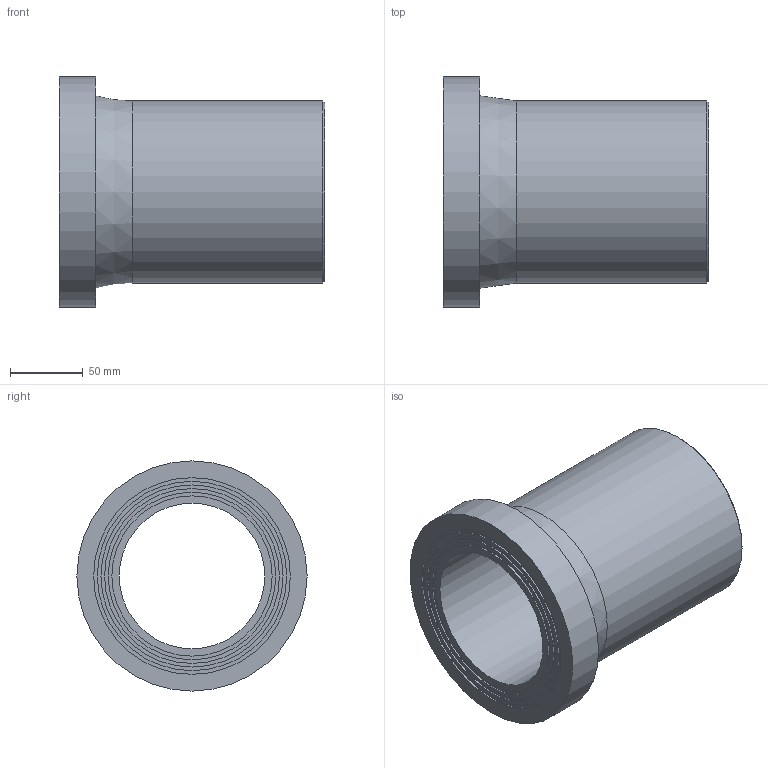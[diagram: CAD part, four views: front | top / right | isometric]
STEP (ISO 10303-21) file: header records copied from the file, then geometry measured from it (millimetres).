
FILE_DESCRIPTION(/* description */ ('Stub Flange 125'),/* implementation_level */ '2;1');
FILE_NAME(/* name */ 'C:\Dropbox\KIMPROJECTS-Inventor\99-16-3568-Processing\ElectroFusion Fittings\31.03.19\490207\490207125.ipt.stp',/* time_stamp */ '2019-03-31T18:57:45+03:00',/* author */ ('Кирилл'),/* organization */ (''),/* preprocessor_version */ 'ST-DEVELOPER v15.6',/* originating_system */ 'Autodesk Inventor 2015',/* authorisation */ '');
FILE_SCHEMA (('AUTOMOTIVE_DESIGN { 1 0 10303 214 3 1 1 }'));
Length unit declared in the file: millimetre
Products named in the file (1): 490207125
Bounding box: 182 x 158 x 158 mm (x, y, z)
Volume: 1001010.8 mm3; surface area: 156302.6 mm2
Topology: 1 solids, 1 shells, 20 faces, 31 edges, 20 vertices
Faces by surface type: cylinder 9, plane 9, cone 2
Full cylindrical faces by diameter (mm): 100 x1, 110 x1, 115 x1, 120 x1, 125 x2, 130 x1, 135 x1, 158 x1
Entity records: 432 total; most frequent: DIRECTION 82, CARTESIAN_POINT 61, AXIS2_PLACEMENT_3D 41, EDGE_LOOP 40, ORIENTED_EDGE 40, FACE_BOUND 20, FACE_OUTER_BOUND 20, CIRCLE 20
